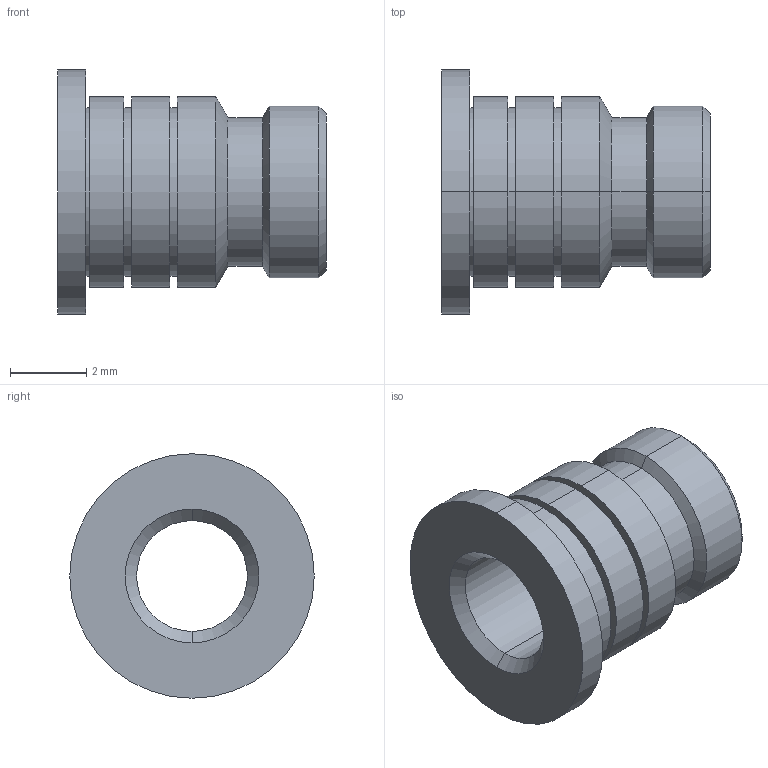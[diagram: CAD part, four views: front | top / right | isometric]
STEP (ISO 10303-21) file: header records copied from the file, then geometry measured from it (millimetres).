
FILE_DESCRIPTION (( 'STEP AP203' ), '1' );
FILE_NAME ('FSUK-MUH-M03.5-S.STEP', '2021-04-15T13:22:08', ( '' ), ( '' ), 'SwSTEP 2.0', 'SolidWorks 2021', '' );
FILE_SCHEMA (( 'CONFIG_CONTROL_DESIGN' ));
Length unit declared in the file: millimetre
Products named in the file (1): FSUK-MUH-M03.5-S
Bounding box: 7.04 x 6.4 x 6.4 mm (x, y, z)
Volume: 82.8 mm3; surface area: 246.6 mm2
Topology: 1 solids, 1 shells, 38 faces, 76 edges, 46 vertices
Faces by surface type: cylinder 20, cone 10, plane 8
Entity records: 1075 total; most frequent: DIRECTION 200, CARTESIAN_POINT 161, ORIENTED_EDGE 152, AXIS2_PLACEMENT_3D 85, EDGE_CURVE 76, CIRCLE 46, EDGE_LOOP 46, VERTEX_POINT 46
